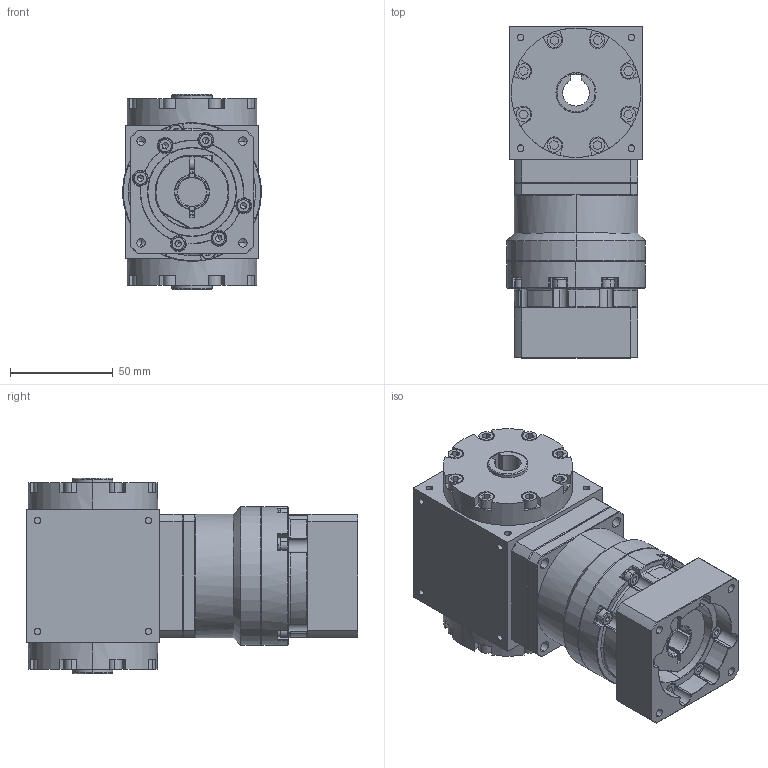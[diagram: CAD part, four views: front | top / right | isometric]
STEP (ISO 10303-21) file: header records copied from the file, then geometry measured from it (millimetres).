
FILE_DESCRIPTION (( 'STEP AP203' ), '1' );
FILE_NAME ('AT065-FH-L1 14-50-70-M5.STEP', '2024-12-18T06:46:55', ( '' ), ( '' ), 'SwSTEP 2.0', 'SolidWorks 2021', '' );
FILE_SCHEMA (( 'CONFIG_CONTROL_DESIGN' ));
Length unit declared in the file: millimetre
Products named in the file (3): AT065-FH-L1 14-50-70-M5; VRB-060-L1-S2-P1 14-50-70-M5; AT065-FH
Assembly tree (2 placements, depth 2):
  AT065-FH-L1 14-50-70-M5
    AT065-FH
    VRB-060-L1-S2-P1 14-50-70-M5
Bounding box: 67.5 x 161.5 x 95 mm (x, y, z)
Volume: 618034.9 mm3; surface area: 110126.4 mm2
Topology: 33 solids, 33 shells, 1482 faces, 3717 edges, 2340 vertices
Faces by surface type: plane 633, cylinder 563, cone 216, torus 54, bspline 16
Entity records: 45172 total; most frequent: CARTESIAN_POINT 9381, DIRECTION 7696, ORIENTED_EDGE 7318, EDGE_CURVE 3659, AXIS2_PLACEMENT_3D 2960, VERTEX_POINT 2340, LINE 1776, VECTOR 1776
